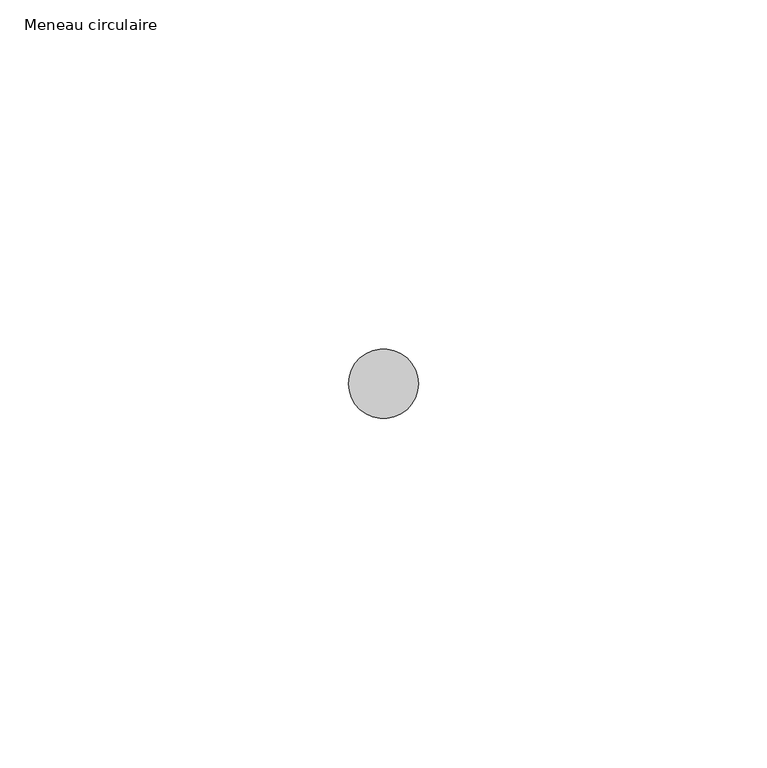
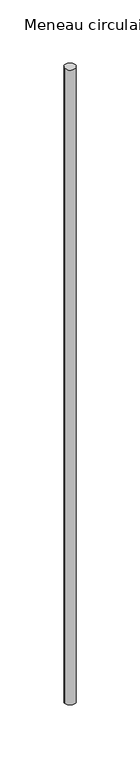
"""IFC4 building model written with IfcOpenShell, lengths in millimetres: member geometry, Meneau circulaire : Diamètre 1cm."""

from ifc_helpers import new_model, si_unit, point, frame, origin, origin_2d, place, context, project, spatial, circle_curve, trimmed, segment, composite_curve, outline, extrude, source, transform, mapped, element, save


def meneau_circulaire_da3486e5(model_context):
    return source(origin(), model_context, "Body", "SweptSolid", [
        extrude(outline(composite_curve([segment(trimmed(circle_curve(origin_2d(), 5.0), [point((5.0, 0.0))], [point((-5.0, 0.0))], False, "CARTESIAN"), True, "CONTINUOUS"), segment(trimmed(circle_curve(origin_2d(), 5.0), [point((-5.0, 0.0))], [point((5.0, 0.0))], False, "CARTESIAN"), True, "CONTINUOUS")], self_intersect=False)), frame((0.0, 0.0, -627.6511818), z_axis=(0.0, 0.0, 1.0), x_axis=(1.0, 0.0, 0.0)), (0.0, 0.0, 1.0), 627.6511818),
    ])


if __name__ == "__main__":
    model = new_model("IFC4")
    model_context = context("Model", 3, world=origin())
    ifc_project = project(units=[si_unit("LENGTHUNIT", "METRE", prefix="MILLI")], contexts=[model_context])
    site = spatial("IfcSite", under=ifc_project)
    building = spatial("IfcBuilding", under=site)
    placement = place(None, origin())
    meneau_circulaire_shape = meneau_circulaire_da3486e5(model_context)
    element("IfcMember", 1, ObjectType="Meneau circulaire : Diamètre 1cm", at=placement, inside=building, context=model_context, shape_type="MappedRepresentation", body=[
        mapped(meneau_circulaire_shape, transform((0.0, 0.0, 0.0), x_axis=(1.0, 0.0, 0.0), y_axis=(0.0, 1.0, 0.0), z_axis=(0.0, 0.0, 1.0))),
    ])
    save(model, "model.ifc")
